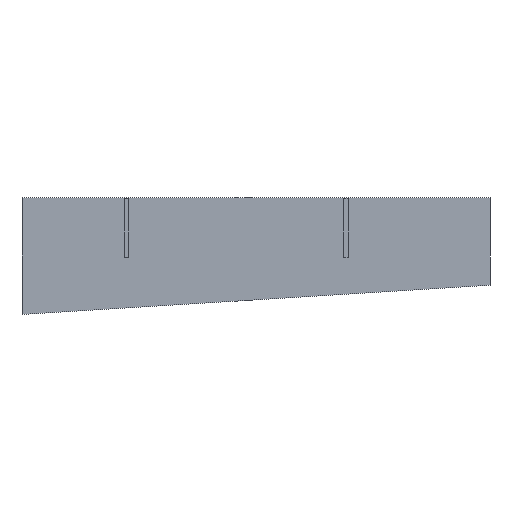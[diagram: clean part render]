
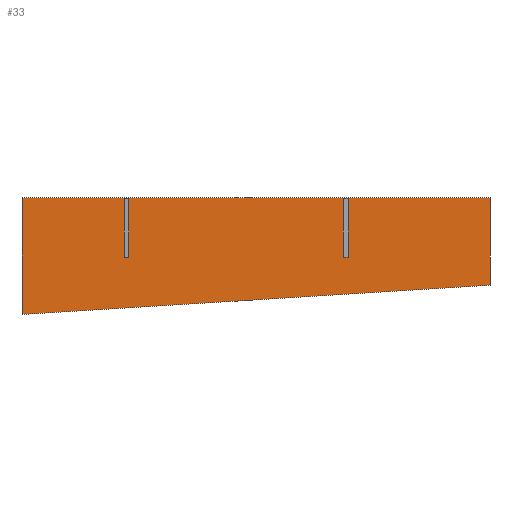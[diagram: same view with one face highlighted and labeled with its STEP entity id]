
A CAD part, front view. The second image highlights one B-rep face of the part: STEP entity #33.
In plain terms, the highlighted planar face has unit normal (0, -1, 0).
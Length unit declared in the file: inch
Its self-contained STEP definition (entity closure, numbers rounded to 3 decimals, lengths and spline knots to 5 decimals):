
#33=ADVANCED_FACE('',(#87),#699,.T.);
#87=FACE_OUTER_BOUND('',#141,.T.);
#141=EDGE_LOOP('',(#204,#205,#206,#207));
#204=ORIENTED_EDGE('',*,*,#412,.F.);
#205=ORIENTED_EDGE('',*,*,#409,.F.);
#206=ORIENTED_EDGE('',*,*,#418,.F.);
#207=ORIENTED_EDGE('',*,*,#416,.F.);
#409=EDGE_CURVE('',#624,#626,#517,.T.);
#412=EDGE_CURVE('',#626,#630,#520,.T.);
#416=EDGE_CURVE('',#630,#629,#524,.T.);
#418=EDGE_CURVE('',#629,#624,#526,.T.);
#517=B_SPLINE_CURVE_WITH_KNOTS('',1,(#971,#972),.UNSPECIFIED.,.F.,.F.,(2,
2),(96.18732,108.18732),.UNSPECIFIED.);
#520=B_SPLINE_CURVE_WITH_KNOTS('',1,(#977,#978),.UNSPECIFIED.,.F.,.F.,(2,
2),(108.18732,156.18732),.UNSPECIFIED.);
#524=B_SPLINE_CURVE_WITH_KNOTS('',1,(#985,#986),.UNSPECIFIED.,.F.,.F.,(2,
2),(-6.,3.),.UNSPECIFIED.);
#526=B_SPLINE_CURVE_WITH_KNOTS('',1,(#989,#990),.UNSPECIFIED.,.F.,.F.,(2,
2),(48.09366,96.18732),.UNSPECIFIED.);
#624=VERTEX_POINT('',#961);
#626=VERTEX_POINT('',#963);
#629=VERTEX_POINT('',#966);
#630=VERTEX_POINT('',#967);
#699=PLANE('',#844);
#844=AXIS2_PLACEMENT_3D('',#958,#901,$);
#901=DIRECTION('',(0.,-1.,0.));
#958=CARTESIAN_POINT('',(-1063.34355,-0.9583,400.84288));
#961=CARTESIAN_POINT('',(-1051.34355,-0.9583,387.34288));
#963=CARTESIAN_POINT('',(-1051.34355,-0.9583,399.34288));
#966=CARTESIAN_POINT('',(-1003.34355,-0.9583,390.34288));
#967=CARTESIAN_POINT('',(-1003.34355,-0.9583,399.34288));
#971=CARTESIAN_POINT('',(-1051.34355,-0.9583,387.34288));
#972=CARTESIAN_POINT('',(-1051.34355,-0.9583,399.34288));
#977=CARTESIAN_POINT('',(-1051.34355,-0.9583,399.34288));
#978=CARTESIAN_POINT('',(-1003.34355,-0.9583,399.34288));
#985=CARTESIAN_POINT('',(-1003.34355,-0.9583,399.34288));
#986=CARTESIAN_POINT('',(-1003.34355,-0.9583,390.34288));
#989=CARTESIAN_POINT('',(-1003.34355,-0.9583,390.34288));
#990=CARTESIAN_POINT('',(-1051.34355,-0.9583,387.34288));
